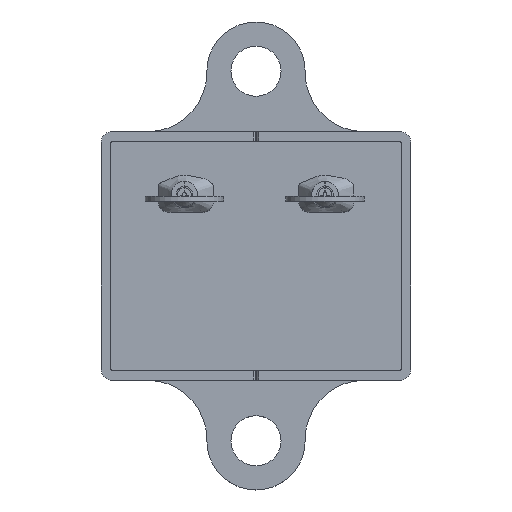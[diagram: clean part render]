
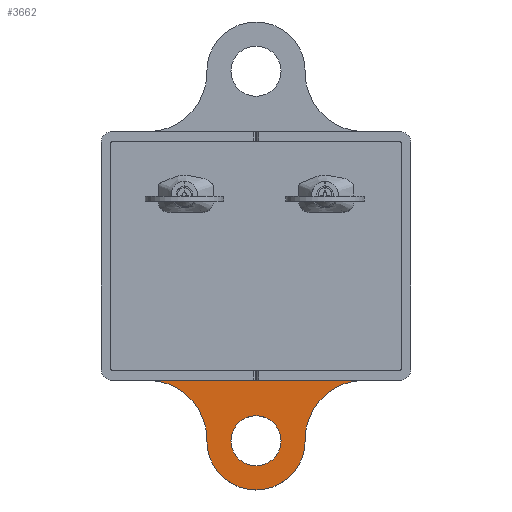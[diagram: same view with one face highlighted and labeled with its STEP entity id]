
A CAD part, top view. The second image highlights one B-rep face of the part: STEP entity #3662.
In plain terms, the highlighted planar face has unit normal (0, 0, 1).
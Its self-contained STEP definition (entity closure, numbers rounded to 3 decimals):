
#64=FACE_BOUND('',#500,.T.);
#125=PLANE('',#4000);
#297=FACE_OUTER_BOUND('',#499,.T.);
#499=EDGE_LOOP('',(#2966,#2967,#2968,#2969,#2970,#2971,#2972,#2973,#2974,
#2975,#2976,#2977));
#500=EDGE_LOOP('',(#2978));
#766=LINE('',#6774,#1099);
#767=LINE('',#6776,#1100);
#768=LINE('',#6780,#1101);
#769=LINE('',#6784,#1102);
#770=LINE('',#6788,#1103);
#771=LINE('',#6792,#1104);
#772=LINE('',#6795,#1105);
#1099=VECTOR('',#4814,10.);
#1100=VECTOR('',#4815,10.);
#1101=VECTOR('',#4818,10.);
#1102=VECTOR('',#4821,10.);
#1103=VECTOR('',#4824,10.);
#1104=VECTOR('',#4827,10.);
#1105=VECTOR('',#4830,10.);
#1386=CIRCLE('',#4001,0.5);
#1387=CIRCLE('',#4002,6.);
#1388=CIRCLE('',#4003,5.);
#1389=CIRCLE('',#4004,6.);
#1390=CIRCLE('',#4005,0.5);
#1391=CIRCLE('',#4006,2.55);
#1665=VERTEX_POINT('',#6772);
#1666=VERTEX_POINT('',#6773);
#1667=VERTEX_POINT('',#6775);
#1668=VERTEX_POINT('',#6777);
#1669=VERTEX_POINT('',#6779);
#1670=VERTEX_POINT('',#6781);
#1671=VERTEX_POINT('',#6783);
#1672=VERTEX_POINT('',#6785);
#1673=VERTEX_POINT('',#6787);
#1674=VERTEX_POINT('',#6789);
#1675=VERTEX_POINT('',#6791);
#1676=VERTEX_POINT('',#6793);
#1677=VERTEX_POINT('',#6796);
#2125=EDGE_CURVE('',#1665,#1666,#766,.T.);
#2126=EDGE_CURVE('',#1666,#1667,#767,.T.);
#2127=EDGE_CURVE('',#1667,#1668,#1386,.T.);
#2128=EDGE_CURVE('',#1668,#1669,#768,.T.);
#2129=EDGE_CURVE('',#1669,#1670,#1387,.T.);
#2130=EDGE_CURVE('',#1670,#1671,#769,.T.);
#2131=EDGE_CURVE('',#1671,#1672,#1388,.T.);
#2132=EDGE_CURVE('',#1672,#1673,#770,.T.);
#2133=EDGE_CURVE('',#1673,#1674,#1389,.T.);
#2134=EDGE_CURVE('',#1674,#1675,#771,.T.);
#2135=EDGE_CURVE('',#1675,#1676,#1390,.T.);
#2136=EDGE_CURVE('',#1676,#1665,#772,.T.);
#2137=EDGE_CURVE('',#1677,#1677,#1391,.T.);
#2966=ORIENTED_EDGE('',*,*,#2125,.T.);
#2967=ORIENTED_EDGE('',*,*,#2126,.T.);
#2968=ORIENTED_EDGE('',*,*,#2127,.T.);
#2969=ORIENTED_EDGE('',*,*,#2128,.T.);
#2970=ORIENTED_EDGE('',*,*,#2129,.T.);
#2971=ORIENTED_EDGE('',*,*,#2130,.T.);
#2972=ORIENTED_EDGE('',*,*,#2131,.T.);
#2973=ORIENTED_EDGE('',*,*,#2132,.T.);
#2974=ORIENTED_EDGE('',*,*,#2133,.T.);
#2975=ORIENTED_EDGE('',*,*,#2134,.T.);
#2976=ORIENTED_EDGE('',*,*,#2135,.T.);
#2977=ORIENTED_EDGE('',*,*,#2136,.T.);
#2978=ORIENTED_EDGE('',*,*,#2137,.T.);
#3662=ADVANCED_FACE('',(#297,#64),#125,.T.);
#4000=AXIS2_PLACEMENT_3D('',#6771,#4812,#4813);
#4001=AXIS2_PLACEMENT_3D('',#6778,#4816,#4817);
#4002=AXIS2_PLACEMENT_3D('',#6782,#4819,#4820);
#4003=AXIS2_PLACEMENT_3D('',#6786,#4822,#4823);
#4004=AXIS2_PLACEMENT_3D('',#6790,#4825,#4826);
#4005=AXIS2_PLACEMENT_3D('',#6794,#4828,#4829);
#4006=AXIS2_PLACEMENT_3D('',#6797,#4831,#4832);
#4812=DIRECTION('center_axis',(0.,0.,1.));
#4813=DIRECTION('ref_axis',(1.,0.,0.));
#4814=DIRECTION('',(-1.,0.,0.));
#4815=DIRECTION('',(0.,-1.,0.));
#4816=DIRECTION('center_axis',(0.,0.,1.));
#4817=DIRECTION('ref_axis',(-1.,0.,0.));
#4818=DIRECTION('',(1.,0.,0.));
#4819=DIRECTION('center_axis',(0.,0.,-1.));
#4820=DIRECTION('ref_axis',(1.,0.,0.));
#4821=DIRECTION('',(0.,-1.,0.));
#4822=DIRECTION('center_axis',(0.,0.,1.));
#4823=DIRECTION('ref_axis',(-1.,0.,0.));
#4824=DIRECTION('',(0.,1.,0.));
#4825=DIRECTION('center_axis',(0.,0.,-1.));
#4826=DIRECTION('ref_axis',(0.,1.,0.));
#4827=DIRECTION('',(1.,0.,0.));
#4828=DIRECTION('center_axis',(0.,0.,1.));
#4829=DIRECTION('ref_axis',(0.,-1.,0.));
#4830=DIRECTION('',(0.,1.,0.));
#4831=DIRECTION('center_axis',(0.,0.,-1.));
#4832=DIRECTION('ref_axis',(1.,0.,0.));
#6771=CARTESIAN_POINT('Origin',(13.551,10.45,-0.5));
#6772=CARTESIAN_POINT('',(28.101,-1.2,-0.5));
#6773=CARTESIAN_POINT('',(-0.999,-1.2,-0.5));
#6774=CARTESIAN_POINT('',(20.874,-1.2,-0.5));
#6775=CARTESIAN_POINT('',(-0.999,-1.7,-0.5));
#6776=CARTESIAN_POINT('',(-0.999,4.625,-0.5));
#6777=CARTESIAN_POINT('',(-0.499,-2.2,-0.5));
#6778=CARTESIAN_POINT('Origin',(-0.499,-1.7,-0.5));
#6779=CARTESIAN_POINT('',(2.551,-2.2,-0.5));
#6780=CARTESIAN_POINT('',(2.551,-2.2,-0.5));
#6781=CARTESIAN_POINT('',(8.551,-8.2,-0.5));
#6782=CARTESIAN_POINT('Origin',(2.551,-8.2,-0.5));
#6783=CARTESIAN_POINT('',(8.551,-8.35,-0.5));
#6784=CARTESIAN_POINT('',(8.551,-8.35,-0.5));
#6785=CARTESIAN_POINT('',(18.551,-8.35,-0.5));
#6786=CARTESIAN_POINT('Origin',(13.551,-8.35,-0.5));
#6787=CARTESIAN_POINT('',(18.551,-8.2,-0.5));
#6788=CARTESIAN_POINT('',(18.551,-8.35,-0.5));
#6789=CARTESIAN_POINT('',(24.551,-2.2,-0.5));
#6790=CARTESIAN_POINT('Origin',(24.551,-8.2,-0.5));
#6791=CARTESIAN_POINT('',(27.601,-2.2,-0.5));
#6792=CARTESIAN_POINT('',(29.301,-2.2,-0.5));
#6793=CARTESIAN_POINT('',(28.101,-1.7,-0.5));
#6794=CARTESIAN_POINT('Origin',(27.601,-1.7,-0.5));
#6795=CARTESIAN_POINT('',(28.101,4.375,-0.5));
#6796=CARTESIAN_POINT('',(11.001,-8.35,-0.5));
#6797=CARTESIAN_POINT('Origin',(13.551,-8.35,-0.5));
